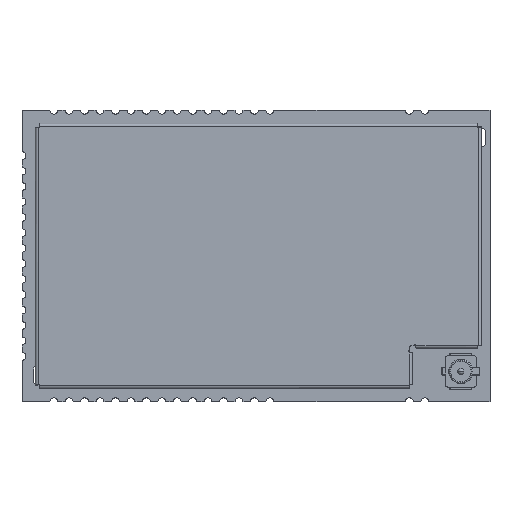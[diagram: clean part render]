
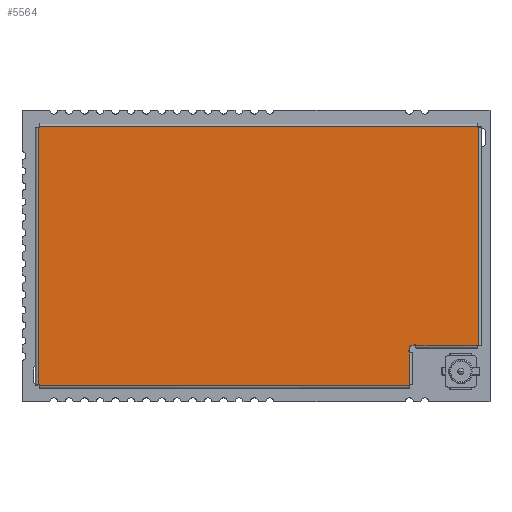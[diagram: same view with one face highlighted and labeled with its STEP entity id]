
A CAD part, top view. The second image highlights one B-rep face of the part: STEP entity #5564.
In plain terms, the highlighted planar face has unit normal (0, 0, 1).
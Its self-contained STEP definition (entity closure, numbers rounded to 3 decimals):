
#5564 = ADVANCED_FACE('',(#5565),#5752,.T.);
#5565 = FACE_BOUND('',#5566,.T.);
#5566 = EDGE_LOOP('',(#5567,#5578,#5586,#5594,#5602,#5610,#5618,#5626,
    #5634,#5642,#5650,#5658,#5666,#5674,#5682,#5690,#5698,#5706,#5714,
    #5722,#5730,#5738,#5746));
#5567 = ORIENTED_EDGE('',*,*,#5568,.F.);
#5568 = EDGE_CURVE('',#5569,#5571,#5573,.T.);
#5569 = VERTEX_POINT('',#5570);
#5570 = CARTESIAN_POINT('',(32.08,4.62,2.8
    ));
#5571 = VERTEX_POINT('',#5572);
#5572 = CARTESIAN_POINT('',(31.88,4.42,2.8
    ));
#5573 = CIRCLE('',#5574,0.2);
#5574 = AXIS2_PLACEMENT_3D('',#5575,#5576,#5577);
#5575 = CARTESIAN_POINT('',(32.08,4.42,2.8
    ));
#5576 = DIRECTION('',(0.,0.,1.));
#5577 = DIRECTION('',(1.,0.,0.));
#5578 = ORIENTED_EDGE('',*,*,#5579,.F.);
#5579 = EDGE_CURVE('',#5580,#5569,#5582,.T.);
#5580 = VERTEX_POINT('',#5581);
#5581 = CARTESIAN_POINT('',(32.3,4.62,2.8
    ));
#5582 = LINE('',#5583,#5584);
#5583 = CARTESIAN_POINT('',(37.6,4.62,2.8
    ));
#5584 = VECTOR('',#5585,1.);
#5585 = DIRECTION('',(-1.,0.,0.));
#5586 = ORIENTED_EDGE('',*,*,#5587,.T.);
#5587 = EDGE_CURVE('',#5580,#5588,#5590,.T.);
#5588 = VERTEX_POINT('',#5589);
#5589 = CARTESIAN_POINT('',(32.3,4.72,2.8
    ));
#5590 = LINE('',#5591,#5592);
#5591 = CARTESIAN_POINT('',(32.3,22.7,
    2.8));
#5592 = VECTOR('',#5593,1.);
#5593 = DIRECTION('',(0.,1.,0.));
#5594 = ORIENTED_EDGE('',*,*,#5595,.T.);
#5595 = EDGE_CURVE('',#5588,#5596,#5598,.T.);
#5596 = VERTEX_POINT('',#5597);
#5597 = CARTESIAN_POINT('',(32.4,4.72,2.8
    ));
#5598 = LINE('',#5599,#5600);
#5599 = CARTESIAN_POINT('',(37.6,4.72,2.8
    ));
#5600 = VECTOR('',#5601,1.);
#5601 = DIRECTION('',(1.,0.,0.));
#5602 = ORIENTED_EDGE('',*,*,#5603,.T.);
#5603 = EDGE_CURVE('',#5596,#5604,#5606,.T.);
#5604 = VERTEX_POINT('',#5605);
#5605 = CARTESIAN_POINT('',(32.4,4.62,2.8
    ));
#5606 = LINE('',#5607,#5608);
#5607 = CARTESIAN_POINT('',(32.4,22.7,
    2.8));
#5608 = VECTOR('',#5609,1.);
#5609 = DIRECTION('',(0.,-1.,0.));
#5610 = ORIENTED_EDGE('',*,*,#5611,.T.);
#5611 = EDGE_CURVE('',#5604,#5612,#5614,.T.);
#5612 = VERTEX_POINT('',#5613);
#5613 = CARTESIAN_POINT('',(37.5,4.62,2.8
    ));
#5614 = LINE('',#5615,#5616);
#5615 = CARTESIAN_POINT('',(32.4,4.62,2.8
    ));
#5616 = VECTOR('',#5617,1.);
#5617 = DIRECTION('',(1.,0.,0.));
#5618 = ORIENTED_EDGE('',*,*,#5619,.F.);
#5619 = EDGE_CURVE('',#5620,#5612,#5622,.T.);
#5620 = VERTEX_POINT('',#5621);
#5621 = CARTESIAN_POINT('',(37.58,4.62,2.8
    ));
#5622 = LINE('',#5623,#5624);
#5623 = CARTESIAN_POINT('',(37.6,4.62,2.8
    ));
#5624 = VECTOR('',#5625,1.);
#5625 = DIRECTION('',(-1.,0.,0.));
#5626 = ORIENTED_EDGE('',*,*,#5627,.T.);
#5627 = EDGE_CURVE('',#5620,#5628,#5630,.T.);
#5628 = VERTEX_POINT('',#5629);
#5629 = CARTESIAN_POINT('',(37.58,22.58,
    2.8));
#5630 = LINE('',#5631,#5632);
#5631 = CARTESIAN_POINT('',(37.58,1.4,2.8
    ));
#5632 = VECTOR('',#5633,1.);
#5633 = DIRECTION('',(0.,1.,0.));
#5634 = ORIENTED_EDGE('',*,*,#5635,.T.);
#5635 = EDGE_CURVE('',#5628,#5636,#5638,.T.);
#5636 = VERTEX_POINT('',#5637);
#5637 = CARTESIAN_POINT('',(37.5,22.58,
    2.8));
#5638 = LINE('',#5639,#5640);
#5639 = CARTESIAN_POINT('',(37.6,22.58,
    2.8));
#5640 = VECTOR('',#5641,1.);
#5641 = DIRECTION('',(-1.,0.,0.));
#5642 = ORIENTED_EDGE('',*,*,#5643,.T.);
#5643 = EDGE_CURVE('',#5636,#5644,#5646,.T.);
#5644 = VERTEX_POINT('',#5645);
#5645 = CARTESIAN_POINT('',(37.5,22.68,
    2.8));
#5646 = LINE('',#5647,#5648);
#5647 = CARTESIAN_POINT('',(37.5,22.7,
    2.8));
#5648 = VECTOR('',#5649,1.);
#5649 = DIRECTION('',(0.,1.,0.));
#5650 = ORIENTED_EDGE('',*,*,#5651,.T.);
#5651 = EDGE_CURVE('',#5644,#5652,#5654,.T.);
#5652 = VERTEX_POINT('',#5653);
#5653 = CARTESIAN_POINT('',(1.4,22.68,2.8
    ));
#5654 = LINE('',#5655,#5656);
#5655 = CARTESIAN_POINT('',(37.5,22.68,
    2.8));
#5656 = VECTOR('',#5657,1.);
#5657 = DIRECTION('',(-1.,-0.,0.));
#5658 = ORIENTED_EDGE('',*,*,#5659,.T.);
#5659 = EDGE_CURVE('',#5652,#5660,#5662,.T.);
#5660 = VERTEX_POINT('',#5661);
#5661 = CARTESIAN_POINT('',(1.4,22.58,2.8
    ));
#5662 = LINE('',#5663,#5664);
#5663 = CARTESIAN_POINT('',(1.4,22.7,2.8
    ));
#5664 = VECTOR('',#5665,1.);
#5665 = DIRECTION('',(0.,-1.,0.));
#5666 = ORIENTED_EDGE('',*,*,#5667,.T.);
#5667 = EDGE_CURVE('',#5660,#5668,#5670,.T.);
#5668 = VERTEX_POINT('',#5669);
#5669 = CARTESIAN_POINT('',(1.32,22.58,2.8
    ));
#5670 = LINE('',#5671,#5672);
#5671 = CARTESIAN_POINT('',(37.6,22.58,
    2.8));
#5672 = VECTOR('',#5673,1.);
#5673 = DIRECTION('',(-1.,0.,0.));
#5674 = ORIENTED_EDGE('',*,*,#5675,.T.);
#5675 = EDGE_CURVE('',#5668,#5676,#5678,.T.);
#5676 = VERTEX_POINT('',#5677);
#5677 = CARTESIAN_POINT('',(1.32,1.4,2.8)
  );
#5678 = LINE('',#5679,#5680);
#5679 = CARTESIAN_POINT('',(1.32,22.6,2.8
    ));
#5680 = VECTOR('',#5681,1.);
#5681 = DIRECTION('',(0.,-1.,0.));
#5682 = ORIENTED_EDGE('',*,*,#5683,.T.);
#5683 = EDGE_CURVE('',#5676,#5684,#5686,.T.);
#5684 = VERTEX_POINT('',#5685);
#5685 = CARTESIAN_POINT('',(1.42,1.4,2.8)
  );
#5686 = LINE('',#5687,#5688);
#5687 = CARTESIAN_POINT('',(37.6,1.4,2.8
    ));
#5688 = VECTOR('',#5689,1.);
#5689 = DIRECTION('',(1.,0.,0.));
#5690 = ORIENTED_EDGE('',*,*,#5691,.T.);
#5691 = EDGE_CURVE('',#5684,#5692,#5694,.T.);
#5692 = VERTEX_POINT('',#5693);
#5693 = CARTESIAN_POINT('',(1.42,1.32,2.8)
  );
#5694 = LINE('',#5695,#5696);
#5695 = CARTESIAN_POINT('',(1.42,22.7,2.8
    ));
#5696 = VECTOR('',#5697,1.);
#5697 = DIRECTION('',(0.,-1.,0.));
#5698 = ORIENTED_EDGE('',*,*,#5699,.T.);
#5699 = EDGE_CURVE('',#5692,#5700,#5702,.T.);
#5700 = VERTEX_POINT('',#5701);
#5701 = CARTESIAN_POINT('',(31.88,1.32,2.8
    ));
#5702 = LINE('',#5703,#5704);
#5703 = CARTESIAN_POINT('',(1.4,1.32,2.8)
  );
#5704 = VECTOR('',#5705,1.);
#5705 = DIRECTION('',(1.,0.,0.));
#5706 = ORIENTED_EDGE('',*,*,#5707,.F.);
#5707 = EDGE_CURVE('',#5708,#5700,#5710,.T.);
#5708 = VERTEX_POINT('',#5709);
#5709 = CARTESIAN_POINT('',(31.88,1.4,2.8
    ));
#5710 = LINE('',#5711,#5712);
#5711 = CARTESIAN_POINT('',(31.88,22.7,
    2.8));
#5712 = VECTOR('',#5713,1.);
#5713 = DIRECTION('',(0.,-1.,0.));
#5714 = ORIENTED_EDGE('',*,*,#5715,.T.);
#5715 = EDGE_CURVE('',#5708,#5716,#5718,.T.);
#5716 = VERTEX_POINT('',#5717);
#5717 = CARTESIAN_POINT('',(31.88,4.1,2.8
    ));
#5718 = LINE('',#5719,#5720);
#5719 = CARTESIAN_POINT('',(31.88,1.4,2.8
    ));
#5720 = VECTOR('',#5721,1.);
#5721 = DIRECTION('',(0.,1.,0.));
#5722 = ORIENTED_EDGE('',*,*,#5723,.T.);
#5723 = EDGE_CURVE('',#5716,#5724,#5726,.T.);
#5724 = VERTEX_POINT('',#5725);
#5725 = CARTESIAN_POINT('',(31.78,4.1,2.8
    ));
#5726 = LINE('',#5727,#5728);
#5727 = CARTESIAN_POINT('',(37.6,4.1,2.8
    ));
#5728 = VECTOR('',#5729,1.);
#5729 = DIRECTION('',(-1.,0.,0.));
#5730 = ORIENTED_EDGE('',*,*,#5731,.T.);
#5731 = EDGE_CURVE('',#5724,#5732,#5734,.T.);
#5732 = VERTEX_POINT('',#5733);
#5733 = CARTESIAN_POINT('',(31.78,4.2,2.8
    ));
#5734 = LINE('',#5735,#5736);
#5735 = CARTESIAN_POINT('',(31.78,22.7,
    2.8));
#5736 = VECTOR('',#5737,1.);
#5737 = DIRECTION('',(0.,1.,0.));
#5738 = ORIENTED_EDGE('',*,*,#5739,.T.);
#5739 = EDGE_CURVE('',#5732,#5740,#5742,.T.);
#5740 = VERTEX_POINT('',#5741);
#5741 = CARTESIAN_POINT('',(31.88,4.2,2.8
    ));
#5742 = LINE('',#5743,#5744);
#5743 = CARTESIAN_POINT('',(37.6,4.2,2.8
    ));
#5744 = VECTOR('',#5745,1.);
#5745 = DIRECTION('',(1.,0.,0.));
#5746 = ORIENTED_EDGE('',*,*,#5747,.F.);
#5747 = EDGE_CURVE('',#5571,#5740,#5748,.T.);
#5748 = LINE('',#5749,#5750);
#5749 = CARTESIAN_POINT('',(31.88,22.7,
    2.8));
#5750 = VECTOR('',#5751,1.);
#5751 = DIRECTION('',(0.,-1.,0.));
#5752 = PLANE('',#5753);
#5753 = AXIS2_PLACEMENT_3D('',#5754,#5755,#5756);
#5754 = CARTESIAN_POINT('',(37.6,22.7,
    2.8));
#5755 = DIRECTION('',(0.,0.,1.));
#5756 = DIRECTION('',(1.,0.,0.));
